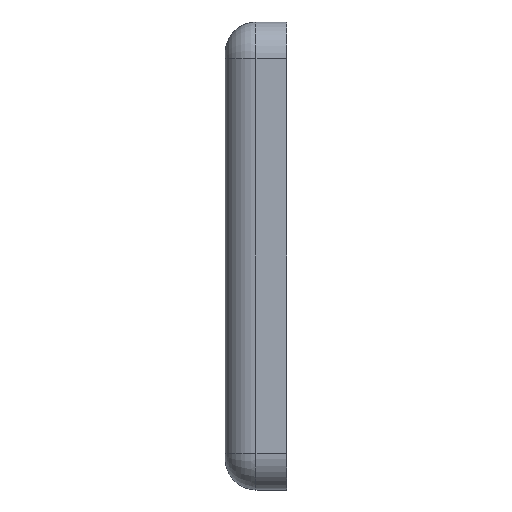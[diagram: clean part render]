
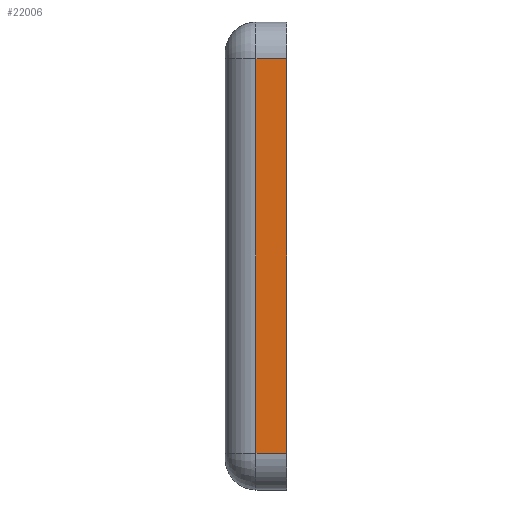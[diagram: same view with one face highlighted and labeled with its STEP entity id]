
A CAD part, left-side view. The second image highlights one B-rep face of the part: STEP entity #22006.
In plain terms, the highlighted planar face has unit normal (-1, 0, 0).
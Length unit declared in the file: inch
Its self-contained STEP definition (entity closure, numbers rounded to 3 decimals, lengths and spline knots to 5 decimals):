
#727 = VECTOR ( 'NONE', #80097, 39.37008 ) ;
#1453 = EDGE_CURVE ( 'NONE', #29512, #44863, #32649, .T. ) ;
#5048 = DIRECTION ( 'NONE',  ( 0., 0., -1. ) ) ;
#13266 = AXIS2_PLACEMENT_3D ( 'NONE', #27055, #51939, #76848 ) ;
#17310 = CARTESIAN_POINT ( 'NONE',  ( -15., 0., -8. ) ) ;
#19591 = CARTESIAN_POINT ( 'NONE',  ( -15., 2.5, -8. ) ) ;
#21612 = LINE ( 'NONE', #45288, #77619 ) ;
#22006 = ADVANCED_FACE ( 'NONE', ( #51546 ), #71104, .T. ) ;
#23027 = LINE ( 'NONE', #17310, #67382 ) ;
#24950 = CARTESIAN_POINT ( 'NONE',  ( -15., 1.25, 8. ) ) ;
#27055 = CARTESIAN_POINT ( 'NONE',  ( -15., 2.5, -8. ) ) ;
#29512 = VERTEX_POINT ( 'NONE', #41968 ) ;
#30209 = EDGE_CURVE ( 'NONE', #45642, #29512, #55179, .T. ) ;
#31833 = DIRECTION ( 'NONE',  ( 0., -1., 0. ) ) ;
#32177 = CARTESIAN_POINT ( 'NONE',  ( -15., 0., 8. ) ) ;
#32649 = LINE ( 'NONE', #19591, #70268 ) ;
#34443 = ORIENTED_EDGE ( 'NONE', *, *, #1453, .T. ) ;
#40999 = CARTESIAN_POINT ( 'NONE',  ( -15., 0., -8. ) ) ;
#41313 = ORIENTED_EDGE ( 'NONE', *, *, #48351, .F. ) ;
#41487 = EDGE_LOOP ( 'NONE', ( #41313, #44698, #34443, #68107 ) ) ;
#41968 = CARTESIAN_POINT ( 'NONE',  ( -15., 1.25, -8. ) ) ;
#44698 = ORIENTED_EDGE ( 'NONE', *, *, #30209, .T. ) ;
#44863 = VERTEX_POINT ( 'NONE', #40999 ) ;
#44922 = VERTEX_POINT ( 'NONE', #32177 ) ;
#45288 = CARTESIAN_POINT ( 'NONE',  ( -15., 2.5, 8. ) ) ;
#45642 = VERTEX_POINT ( 'NONE', #24950 ) ;
#48351 = EDGE_CURVE ( 'NONE', #45642, #44922, #21612, .T. ) ;
#51546 = FACE_OUTER_BOUND ( 'NONE', #41487, .T. ) ;
#51939 = DIRECTION ( 'NONE',  ( -1., 0., 0. ) ) ;
#55179 = LINE ( 'NONE', #55577, #727 ) ;
#55577 = CARTESIAN_POINT ( 'NONE',  ( -15., 1.25, -8. ) ) ;
#57954 = DIRECTION ( 'NONE',  ( 0., -1., 0. ) ) ;
#65791 = EDGE_CURVE ( 'NONE', #44922, #44863, #23027, .T. ) ;
#67382 = VECTOR ( 'NONE', #5048, 39.37008 ) ;
#68107 = ORIENTED_EDGE ( 'NONE', *, *, #65791, .F. ) ;
#70268 = VECTOR ( 'NONE', #31833, 39.37008 ) ;
#71104 = PLANE ( 'NONE',  #13266 ) ;
#76848 = DIRECTION ( 'NONE',  ( 0., 0., 1. ) ) ;
#77619 = VECTOR ( 'NONE', #57954, 39.37008 ) ;
#80097 = DIRECTION ( 'NONE',  ( 0., 0., -1. ) ) ;
